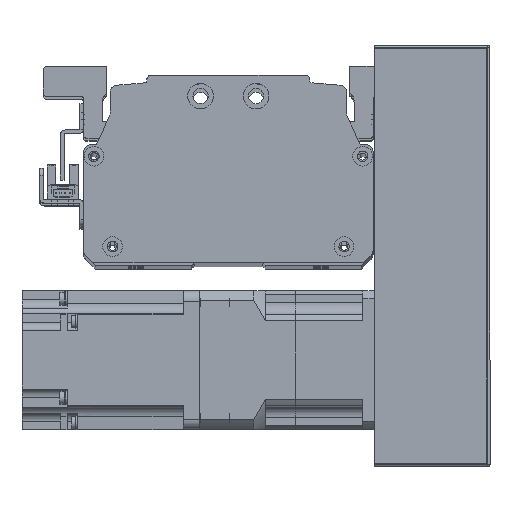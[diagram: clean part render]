
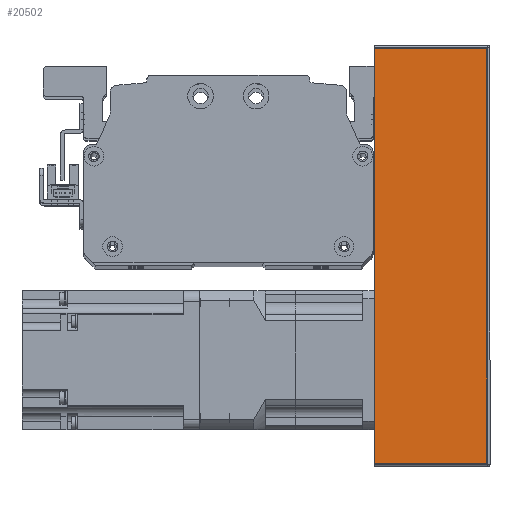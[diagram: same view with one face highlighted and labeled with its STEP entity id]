
A CAD part, top view. The second image highlights one B-rep face of the part: STEP entity #20502.
In plain terms, the highlighted planar face has unit normal (0, 0, 1) as drawn and (0, 1, 0) by its records, which use the part's own axes.
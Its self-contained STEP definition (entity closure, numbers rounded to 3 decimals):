
#568=PLANE('',#22501);
#1775=LINE('',#33375,#3399);
#1789=LINE('',#33420,#3413);
#1793=LINE('',#33442,#3417);
#1812=LINE('',#33505,#3436);
#3399=VECTOR('',#27110,10.);
#3413=VECTOR('',#27158,10.);
#3417=VECTOR('',#27192,10.);
#3436=VECTOR('',#27275,10.);
#5798=FACE_OUTER_BOUND('',#7246,.T.);
#7246=EDGE_LOOP('',(#17112,#17113,#17114,#17115));
#10086=VERTEX_POINT('',#33372);
#10087=VERTEX_POINT('',#33374);
#10100=VERTEX_POINT('',#33415);
#10101=VERTEX_POINT('',#33418);
#12523=EDGE_CURVE('',#10087,#10086,#1775,.T.);
#12547=EDGE_CURVE('',#10100,#10101,#1789,.T.);
#12559=EDGE_CURVE('',#10086,#10100,#1793,.T.);
#12590=EDGE_CURVE('',#10101,#10087,#1812,.T.);
#17112=ORIENTED_EDGE('',*,*,#12547,.T.);
#17113=ORIENTED_EDGE('',*,*,#12590,.T.);
#17114=ORIENTED_EDGE('',*,*,#12523,.T.);
#17115=ORIENTED_EDGE('',*,*,#12559,.T.);
#20502=ADVANCED_FACE('',(#5798),#568,.F.);
#22501=AXIS2_PLACEMENT_3D('',#33504,#27273,#27274);
#27110=DIRECTION('',(-1.,0.,0.));
#27158=DIRECTION('',(1.,0.,0.));
#27192=DIRECTION('',(0.,0.,1.));
#27273=DIRECTION('center_axis',(0.,-1.,0.));
#27274=DIRECTION('ref_axis',(-1.,0.,0.));
#27275=DIRECTION('',(0.,0.,-1.));
#33372=CARTESIAN_POINT('',(-90.,38.,-25.));
#33374=CARTESIAN_POINT('',(90.,38.,-25.));
#33375=CARTESIAN_POINT('',(-91.,38.,-25.));
#33415=CARTESIAN_POINT('',(-90.,38.,24.));
#33418=CARTESIAN_POINT('',(90.,38.,24.));
#33420=CARTESIAN_POINT('',(45.5,38.,24.));
#33442=CARTESIAN_POINT('',(-90.,38.,0.));
#33504=CARTESIAN_POINT('Origin',(91.,38.,0.));
#33505=CARTESIAN_POINT('',(90.,38.,0.));
